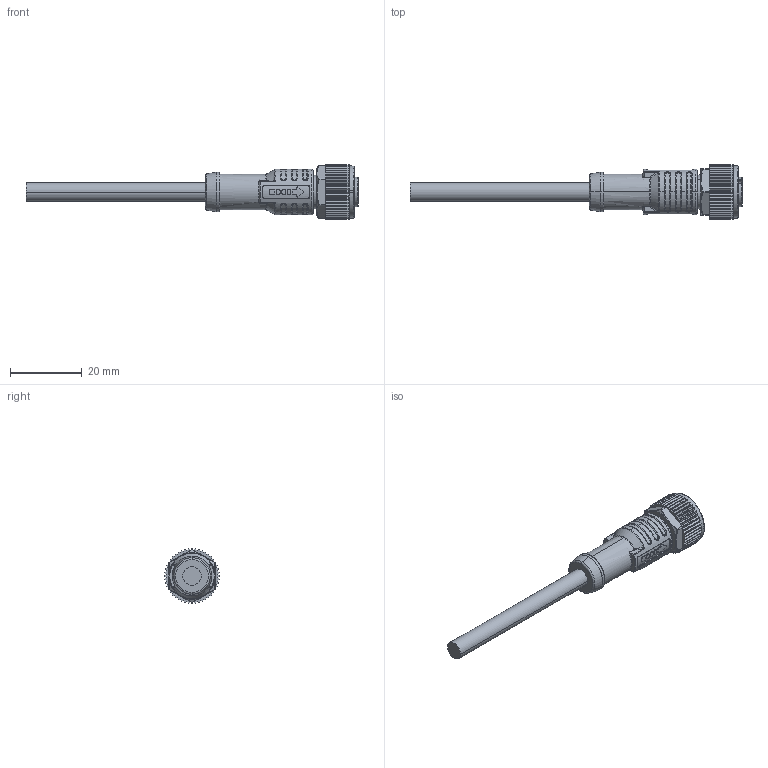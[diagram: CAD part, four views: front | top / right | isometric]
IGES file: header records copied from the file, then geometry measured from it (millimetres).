
Start section:  PTC IGES file: M12A-05BFFM-SL8BXX.igs
Global section: file name: M12A-05BFFM-SL8BXX.igs; native system: Creo Parametric by Parametric Technology Corporation; preprocessor: 2013050; author: ks6143; organization: Unknown; date: 20150822.145410; units: millimetre
Bounding box: 92.5 x 15.3 x 15.3 mm (x, y, z)
Volume: 5467.3 mm3; surface area: 4395.5 mm2
Topology: 1 solids, 1 shells, 1003 faces, 2602 edges, 1647 vertices
Faces by surface type: bspline 546, revolution 353, extrusion 104
